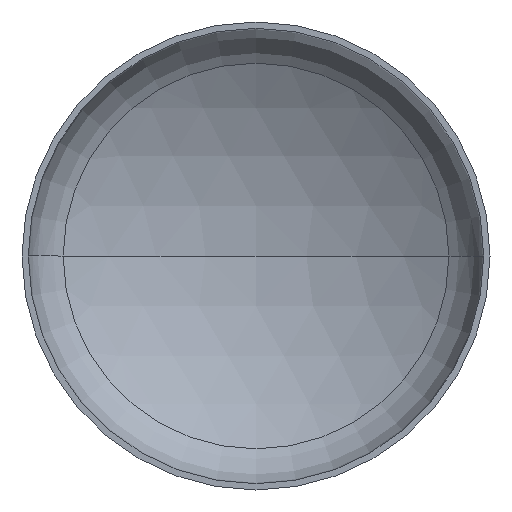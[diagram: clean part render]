
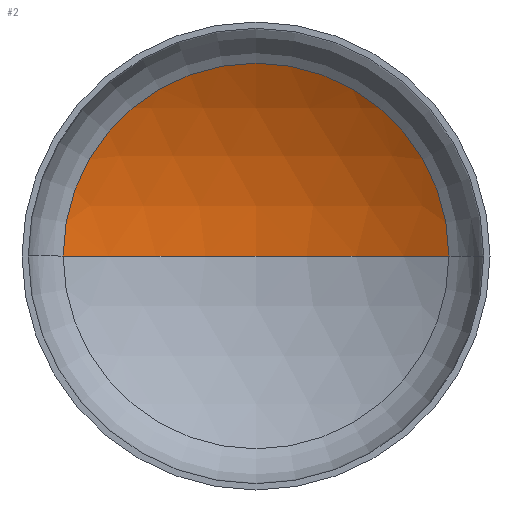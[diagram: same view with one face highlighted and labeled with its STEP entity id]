
A CAD part, front view. The second image highlights one B-rep face of the part: STEP entity #2.
In plain terms, the highlighted spherical face has radius 4400 mm.
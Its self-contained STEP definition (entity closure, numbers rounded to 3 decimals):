
#1 = CARTESIAN_POINT ( 'NONE',  ( 0., -2927.206, 0. ) ) ;
#2 = ADVANCED_FACE ( 'NONE', ( #239 ), #234, .F. ) ;
#13 = AXIS2_PLACEMENT_3D ( 'NONE', #230, #411, #256 ) ;
#18 = VERTEX_POINT ( 'NONE', #147 ) ;
#40 = VERTEX_POINT ( 'NONE', #297 ) ;
#43 = DIRECTION ( 'NONE',  ( 1., 0., 0. ) ) ;
#58 = ORIENTED_EDGE ( 'NONE', *, *, #237, .T. ) ;
#64 = ORIENTED_EDGE ( 'NONE', *, *, #267, .T. ) ;
#78 = VERTEX_POINT ( 'NONE', #109 ) ;
#91 = AXIS2_PLACEMENT_3D ( 'NONE', #1, #258, #43 ) ;
#98 = AXIS2_PLACEMENT_3D ( 'NONE', #217, #220, #198 ) ;
#109 = CARTESIAN_POINT ( 'NONE',  ( 0., 1472.794, 0. ) ) ;
#147 = CARTESIAN_POINT ( 'NONE',  ( 2266.217, 844.301, 0. ) ) ;
#162 = ORIENTED_EDGE ( 'NONE', *, *, #286, .F. ) ;
#170 = EDGE_LOOP ( 'NONE', ( #162, #64, #58 ) ) ;
#175 = CIRCLE ( 'NONE', #13, 4400. ) ;
#194 = CARTESIAN_POINT ( 'NONE',  ( 0., 844.301, 0. ) ) ;
#198 = DIRECTION ( 'NONE',  ( -1., 0., 0. ) ) ;
#217 = CARTESIAN_POINT ( 'NONE',  ( 0., -2927.206, 0. ) ) ;
#220 = DIRECTION ( 'NONE',  ( 0., 0., -1. ) ) ;
#229 = DIRECTION ( 'NONE',  ( 1., 0., 0. ) ) ;
#230 = CARTESIAN_POINT ( 'NONE',  ( 0., -2927.206, 0. ) ) ;
#234 = SPHERICAL_SURFACE ( 'NONE', #98, 4400. ) ;
#237 = EDGE_CURVE ( 'NONE', #18, #40, #398, .T. ) ;
#239 = FACE_OUTER_BOUND ( 'NONE', #170, .T. ) ;
#246 = CIRCLE ( 'NONE', #91, 4400. ) ;
#256 = DIRECTION ( 'NONE',  ( -1., 0., 0. ) ) ;
#258 = DIRECTION ( 'NONE',  ( 0., 0., 1. ) ) ;
#267 = EDGE_CURVE ( 'NONE', #78, #18, #175, .T. ) ;
#286 = EDGE_CURVE ( 'NONE', #78, #40, #246, .T. ) ;
#297 = CARTESIAN_POINT ( 'NONE',  ( -2266.217, 844.301, 0. ) ) ;
#384 = AXIS2_PLACEMENT_3D ( 'NONE', #194, #385, #229 ) ;
#385 = DIRECTION ( 'NONE',  ( 0., -1., 0. ) ) ;
#398 = CIRCLE ( 'NONE', #384, 2266.217 ) ;
#411 = DIRECTION ( 'NONE',  ( 0., 0., -1. ) ) ;
